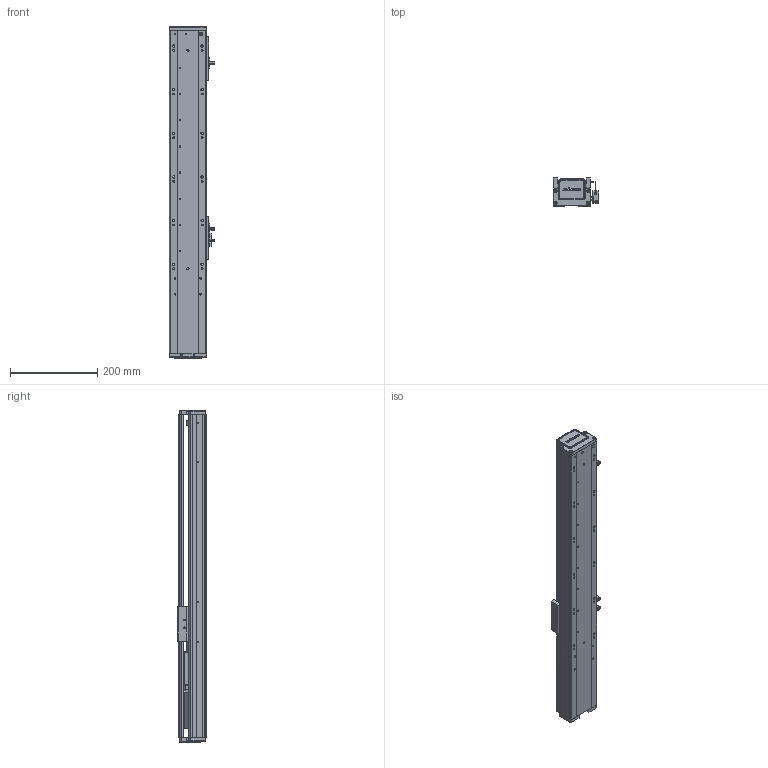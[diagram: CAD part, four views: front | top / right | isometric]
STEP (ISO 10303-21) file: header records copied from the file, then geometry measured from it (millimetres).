
FILE_DESCRIPTION (( 'STEP AP203' ), '1' );
FILE_NAME ('RY80-L1620-300-IK.SLDASM_400.step', '2021-02-22T05:28:50', ( '盈信电脑' ), ( '东莞市道滘镇水果街19号' ), 'SwSTEP 2.0', 'SolidWorks 2012', '' );
FILE_SCHEMA (( 'CONFIG_CONTROL_DESIGN' ));
Products named in the file (14): 滅袉蝶18-24; RY80囀离ヶ啣; RY80囀离萇儂啣; RY80-L1620-300-IK.SLDASM_400; 覜茼ん672; 672嫖萇羲壽假蚾釱; RY80俋离覜茼え; 侂狟100W; RY80綴裔啣; RY80萇儂傷盓傅釱; 滅袉蝶18-10; RY80臏賑輸; RY80-300倰第菁釱-IK_400; RY80-300倰第奻裔啣-IK_400
Assembly tree (16 placements, depth 2):
  RY80-L1620-300-IK.SLDASM_400
    RY80-300倰第菁釱-IK_400
    RY80臏賑輸
    RY80-300倰第奻裔啣-IK_400
    RY80萇儂傷盓傅釱
    RY80綴裔啣
    滅袉蝶18-10
    672嫖萇羲壽假蚾釱  x2
    覜茼ん672  x3
    RY80俋离覜茼え
    侂狟100W
    RY80囀离萇儂啣
    RY80囀离ヶ啣
    滅袉蝶18-24
Bounding box: 103.7 x 65 x 761 mm (x, y, z)
Volume: 1403073.5 mm3; surface area: 577008.6 mm2
Topology: 16 solids, 16 shells, 2045 faces, 5666 edges, 3695 vertices
Faces by surface type: plane 1266, cylinder 642, cone 93, bspline 44
Entity records: 64229 total; most frequent: CARTESIAN_POINT 15987, ORIENTED_EDGE 10052, DIRECTION 9095, EDGE_CURVE 5026, VECTOR 3405, LINE 3405, VERTEX_POINT 3311, AXIS2_PLACEMENT_3D 2845
